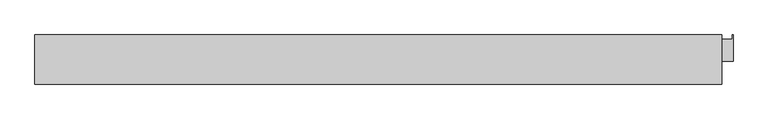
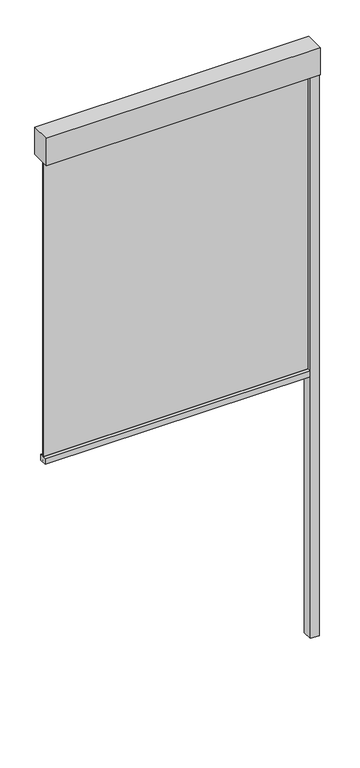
"""IFC4 building model written with IfcOpenShell, lengths in millimetres: proxy geometry, Renson_Fixscreen_Minimal_CW50_Reynaers_Middle : For Reynaers curtain wall - Middle element - Access downwards - Fabric close to the window."""

from ifc_helpers import new_model, si_unit, point, frame, frame_2d, origin, origin_with_axes, place, context, project, spatial, polyline, circle_curve, trimmed, segment, composite_curve, outline, extrude, source, transform, mapped, element, save


def generic_models_dffd3d31(model_context):
    return source(origin(), model_context, "Body", "SweptSolid", [
        extrude(outline(polyline([(530.0, -751.4959909), (480.0, -751.4959909), (480.0, -693.5959909), (482.0275515, -693.5959909), (482.0275515, -703.7336963), (527.9813485, -703.7336963), (527.9813485, -693.5959909), (530.0, -693.5959909), (530.0, -751.4959909)])), origin_with_axes(), (0.0, 0.0, 1.0), 3340.0),
        extrude(outline(polyline([(-1020.0, -693.5959909), (505.0, -693.5959909), (505.0, -803.5959909), (-1020.0, -803.5959909), (-1020.0, -693.5959909)])), frame((0.0, 0.0, 3340.0), z_axis=(0.0, 0.0, 1.0), x_axis=(1.0, 0.0, 0.0)), (0.0, 0.0, 1.0), 160.0),
        extrude(outline(composite_curve([segment(polyline([(-708.5959909, 1540.0), (-749.0958874, 1540.0), (-749.0958874, 1574.1156826), (-731.9717779, 1575.0000198)]), True, "CONTINUOUS"), segment(trimmed(circle_curve(frame_2d((-731.9459909, 1574.5006852)), 0.5), [point((-731.9717779, 1575.0000198))], [point((-731.4459909, 1574.5006852))], False, "CARTESIAN"), True, "CONTINUOUS"), segment(polyline([(-731.4459909, 1574.5006852), (-731.4459909, 1573.5367989), (-732.7111292, 1573.5367989), (-731.9708257, 1569.0119223)]), True, "CONTINUOUS"), segment(trimmed(circle_curve(frame_2d((-771.4459909, 1562.5534911)), 40.0), [point((-731.9708257, 1569.0119223))], [point((-731.4459909, 1562.5534911))], False, "CARTESIAN"), True, "CONTINUOUS"), segment(polyline([(-731.4459909, 1562.5534911), (-731.4459909, 1554.5006852)]), True, "CONTINUOUS"), segment(trimmed(circle_curve(frame_2d((-729.4459909, 1554.5006852)), 2.0), [point((-731.4459909, 1554.5006852))], [point((-729.4459909, 1552.5006852))], True, "CARTESIAN"), True, "CONTINUOUS"), segment(polyline([(-729.4459909, 1552.5006852), (-727.7459909, 1552.5006852)]), True, "CONTINUOUS"), segment(trimmed(circle_curve(frame_2d((-727.7459909, 1554.5006852)), 2.0), [point((-727.7459909, 1552.5006852))], [point((-725.7459909, 1554.5006852))], True, "CARTESIAN"), True, "CONTINUOUS"), segment(polyline([(-725.7459909, 1554.5006852), (-725.7459909, 1562.5534911)]), True, "CONTINUOUS"), segment(trimmed(circle_curve(frame_2d((-685.7459909, 1562.5534911)), 40.0), [point((-725.7459909, 1562.5534911))], [point((-725.221156, 1569.0119223))], False, "CARTESIAN"), True, "CONTINUOUS"), segment(polyline([(-725.221156, 1569.0119223), (-724.4808525, 1573.5367989), (-725.7459909, 1573.5367989), (-725.7459909, 1574.5006852)]), True, "CONTINUOUS"), segment(trimmed(circle_curve(frame_2d((-725.2459909, 1574.5006852)), 0.5), [point((-725.7459909, 1574.5006852))], [point((-725.2194276, 1574.9999791))], False, "CARTESIAN"), True, "CONTINUOUS"), segment(polyline([(-725.2194276, 1574.9999791), (-708.5959909, 1574.1156826), (-708.5959909, 1540.0)]), True, "CONTINUOUS")], self_intersect=False)), frame((-995.0, 0.0, 0.0), z_axis=(1.0, 0.0, 0.0), x_axis=(0.0, 1.0, 0.0)), (0.0, 0.0, 1.0), 1475.0),
        extrude(outline(polyline([(-995.0, -730.0959909), (-995.0, -727.0959909), (480.0, -727.0959909), (480.0, -730.0959909), (-995.0, -730.0959909)])), frame((0.0, 0.0, 1552.5006852), z_axis=(0.0, 0.0, 1.0), x_axis=(1.0, 0.0, 0.0)), (0.0, 0.0, 1.0), 1787.4993148),
    ])


if __name__ == "__main__":
    model = new_model("IFC4")
    model_context = context("Model", 3, world=origin())
    ifc_project = project(units=[si_unit("LENGTHUNIT", "METRE", prefix="MILLI")], contexts=[model_context])
    site = spatial("IfcSite", under=ifc_project)
    building = spatial("IfcBuilding", under=site)
    placement = place(None, origin())
    generic_models_shape = generic_models_dffd3d31(model_context)
    element("IfcBuildingElementProxy", 1, Name="Renson_Fixscreen_Minimal_CW50_Reynaers_Middle : For Reynaers curtain wall - Middle element - Access downwards - Fabric close to the window", ObjectType="Renson_Fixscreen_Minimal_CW50_Reynaers_Middle : For Reynaers curtain wall - Middle element - Access downwards - Fabric close to the window", at=placement, inside=building, context=model_context, shape_type="MappedRepresentation", body=[
        mapped(generic_models_shape, transform((0.0, 0.0, 0.0), x_axis=(1.0, 0.0, 0.0), y_axis=(0.0, 1.0, 0.0), z_axis=(0.0, 0.0, 1.0))),
    ])
    save(model, "model.ifc")
